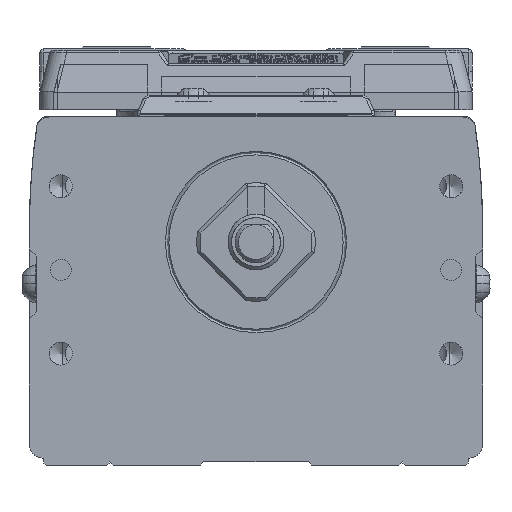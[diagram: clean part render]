
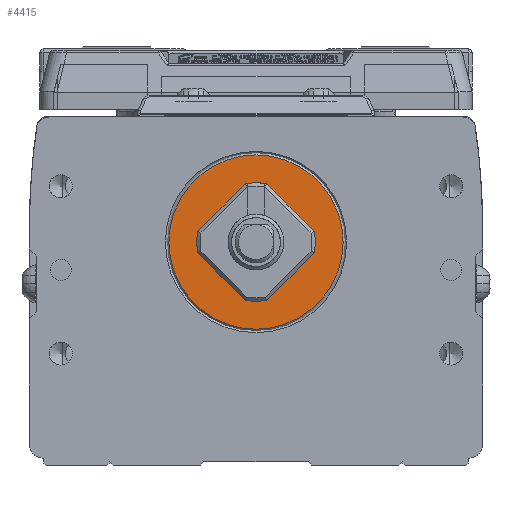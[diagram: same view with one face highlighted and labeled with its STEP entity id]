
A CAD part, left-side view. The second image highlights one B-rep face of the part: STEP entity #4415.
In plain terms, the highlighted planar face has unit normal (-1, 0, 0) as drawn and (0, 0, 1) by its records, which use the part's own axes.
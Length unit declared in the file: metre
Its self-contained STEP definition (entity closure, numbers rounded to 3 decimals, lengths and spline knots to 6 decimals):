
#4415=ADVANCED_FACE('',(#8986,#8987),#8988,.T.);
#8986=FACE_OUTER_BOUND('',#16897,.T.);
#8987=FACE_BOUND('',#16898,.T.);
#8988=PLANE('',#16899);
#16897=EDGE_LOOP('',(#28488));
#16898=EDGE_LOOP('',(#28489));
#16899=AXIS2_PLACEMENT_3D('',#28490,#28491,#28492);
#28488=ORIENTED_EDGE('',*,*,#34639,.T.);
#28489=ORIENTED_EDGE('',*,*,#34609,.F.);
#28490=CARTESIAN_POINT('',(0.000036,-0.0065,0.02));
#28491=DIRECTION('',(0.0,0.0,1.0));
#28492=DIRECTION('',(1.0,0.0,0.0));
#34609=EDGE_CURVE('',#41608,#41608,#41609,.T.);
#34639=EDGE_CURVE('',#41642,#41642,#41643,.T.);
#41608=VERTEX_POINT('',#51990);
#41609=CIRCLE('',#51991,0.004);
#41642=VERTEX_POINT('',#52030);
#41643=CIRCLE('',#52031,0.0125);
#51990=CARTESIAN_POINT('',(0.004,0.0,0.02));
#51991=AXIS2_PLACEMENT_3D('',#57618,#57619,#57620);
#52030=CARTESIAN_POINT('',(-0.0125,0.,0.02));
#52031=AXIS2_PLACEMENT_3D('',#57645,#57646,#57647);
#57618=CARTESIAN_POINT('',(0.0,0.0,0.02));
#57619=DIRECTION('',(0.0,0.0,1.0));
#57620=DIRECTION('',(-1.0,0.0,0.0));
#57645=CARTESIAN_POINT('',(0.0,0.,0.02));
#57646=DIRECTION('',(0.0,0.0,1.0));
#57647=DIRECTION('',(1.0,0.0,0.0));
